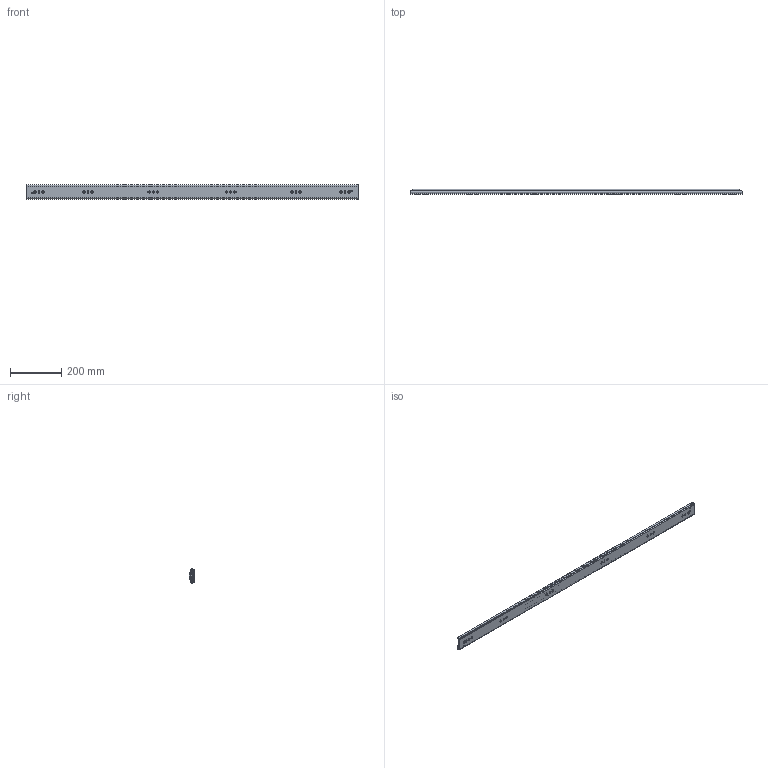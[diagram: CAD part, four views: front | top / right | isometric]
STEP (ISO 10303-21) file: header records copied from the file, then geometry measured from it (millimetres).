
FILE_DESCRIPTION((''),'2;1');
FILE_NAME('1057-C-52_ASM','2023-11-23T',('jishu015'),(''),'PRO/ENGINEER BY PARAMETRIC TECHNOLOGY CORPORATION, 2010280','PRO/ENGINEER BY PARAMETRIC TECHNOLOGY CORPORATION, 2010280','');
FILE_SCHEMA(('CONFIG_CONTROL_DESIGN'));
Products named in the file (19): KP-57-01WEIKE-31_____________; MAODING-WAI_____________; 1057DAZHUJIA-20GE1_____________; 1057ZHUJIADANWEIJIAO1234; 1057-5-6GANZHU1_____________; 1057DAZHUJIA-20GE_12_____ASM; 1057-C-20-KE______________ASM; KP-57-01ZHONGGUI-36_____; PEIJIAN-22_____________; ZHUANJIAO112_____________; LIUJIAO-DING11_____________; MAODING-P_____________; PEIJIAN-ZHONG______________ASM; 1057XIAOZHUJIA___2011_; 1057XIAOZHUJIA-20GE11__ASM; KP-57-01ZHONGGUI-36______ASM; KP-57-01NEIGUI-241_____________; KP-57-01NEIGUI-241______________ASM; 1057-C-52_ASM
Assembly tree (208 placements, depth 4):
  1057-C-52_ASM
    1057-C-20-KE______________ASM
      KP-57-01WEIKE-31_____________
      MAODING-WAI_____________  x2
      1057DAZHUJIA-20GE_12_____ASM
        1057DAZHUJIA-20GE1_____________
        1057ZHUJIADANWEIJIAO1234  x2
        1057-5-6GANZHU1_____________  x92
    KP-57-01ZHONGGUI-36______ASM
      KP-57-01ZHONGGUI-36_____
      PEIJIAN-ZHONG______________ASM  x2
        PEIJIAN-22_____________
        ZHUANJIAO112_____________
        LIUJIAO-DING11_____________
        MAODING-P_____________
      MAODING-WAI_____________  x2
      1057XIAOZHUJIA-20GE11__ASM
        1057XIAOZHUJIA___2011_
        1057-5-6GANZHU1_____________  x92
        1057ZHUJIADANWEIJIAO1234  x2
    KP-57-01NEIGUI-241______________ASM
      KP-57-01NEIGUI-241_____________
Bounding box: 1300 x 19.8 x 57.67 mm (x, y, z)
Volume: 566882.9 mm3; surface area: 664277.1 mm2
Topology: 205 solids, 205 shells, 5082 faces, 14150 edges, 8736 vertices
Faces by surface type: plane 2272, cylinder 2088, sphere 374, bspline 146, cone 114, torus 88
Entity records: 146894 total; most frequent: CARTESIAN_POINT 30555, DIRECTION 24780, ORIENTED_EDGE 24114, EDGE_CURVE 12057, AXIS2_PLACEMENT_3D 8544, VERTEX_POINT 7752, VECTOR 7692, LINE 7692
